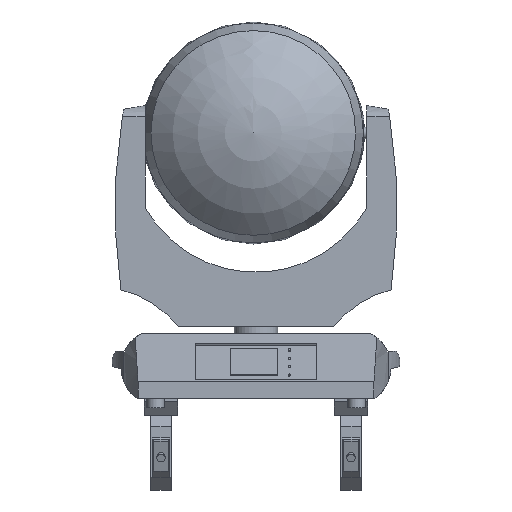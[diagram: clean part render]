
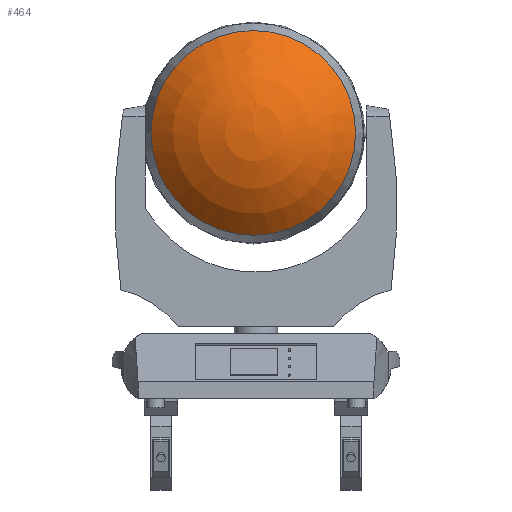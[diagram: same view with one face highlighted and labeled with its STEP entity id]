
A CAD part, left-side view. The second image highlights one B-rep face of the part: STEP entity #464.
In plain terms, the highlighted spherical face has radius 206.306 mm.
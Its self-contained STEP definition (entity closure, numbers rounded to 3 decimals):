
#464 = ADVANCED_FACE( '', ( #947, #948 ), #949, .T. );
#947 = FACE_BOUND( '', #1515, .T. );
#948 = FACE_OUTER_BOUND( '', #1516, .T. );
#949 = SPHERICAL_SURFACE( '', #1517, 206.306 );
#1515 = VERTEX_LOOP( '', #2483 );
#1516 = EDGE_LOOP( '', ( #2484 ) );
#1517 = AXIS2_PLACEMENT_3D( '', #2485, #2486, #2487 );
#2483 = VERTEX_POINT( '', #3502 );
#2484 = ORIENTED_EDGE( '', *, *, #3443, .T. );
#2485 = CARTESIAN_POINT( '', ( 74.665, 0., 386. ) );
#2486 = DIRECTION( '', ( -1., 0., 0. ) );
#2487 = DIRECTION( '', ( 0., 0., 1. ) );
#3443 = EDGE_CURVE( '', #4129, #4129, #4130, .T. );
#3502 = CARTESIAN_POINT( '', ( -131.642, 0., 386. ) );
#4129 = VERTEX_POINT( '', #5358 );
#4130 = CIRCLE( '', #5359, 150.85 );
#5358 = CARTESIAN_POINT( '', ( -66.071, 0., 536.85 ) );
#5359 = AXIS2_PLACEMENT_3D( '', #6475, #6476, #6477 );
#6475 = CARTESIAN_POINT( '', ( -66.071, 0., 386. ) );
#6476 = DIRECTION( '', ( -1., 0., 0. ) );
#6477 = DIRECTION( '', ( 0., 0., 1. ) );
